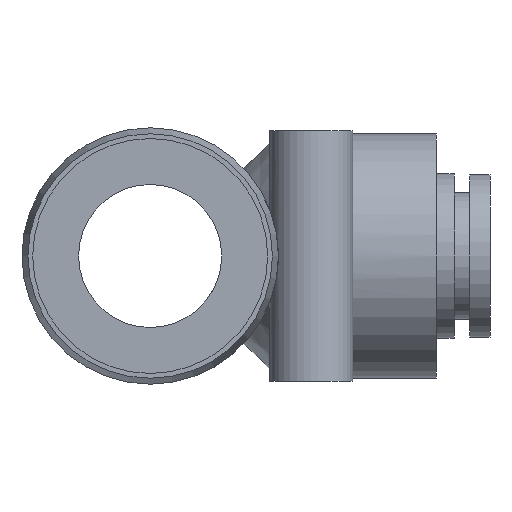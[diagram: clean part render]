
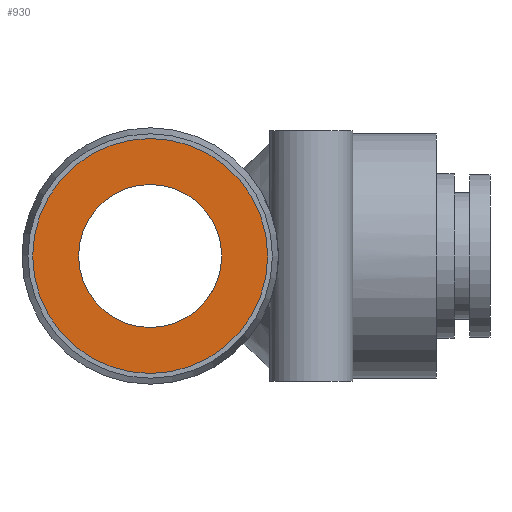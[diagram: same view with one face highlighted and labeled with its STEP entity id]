
A CAD part, left-side view. The second image highlights one B-rep face of the part: STEP entity #930.
In plain terms, the highlighted planar face has unit normal (-1, 0, 0).
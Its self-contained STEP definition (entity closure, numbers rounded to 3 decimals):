
#501=CARTESIAN_POINT('',(-29.,-6.,0.));
#502=VERTEX_POINT('',#501);
#503=CARTESIAN_POINT('',(-29.,0.0,0.0));
#504=DIRECTION('',(1.0,0.0,0.0));
#505=DIRECTION('',(0.0,1.0,0.0));
#506=AXIS2_PLACEMENT_3D('',#503,#504,#505);
#507=CIRCLE('',#506,6.);
#508=EDGE_CURVE('',#502,#502,#507,.T.);
#911=CARTESIAN_POINT('',(-29.,4.925,0.0));
#912=DIRECTION('',(-1.0,0.0,0.0));
#913=DIRECTION('',(0.0,0.0,1.0));
#914=AXIS2_PLACEMENT_3D('',#911,#912,#913);
#915=PLANE('',#914);
#916=CARTESIAN_POINT('',(-29.,9.85,0.0));
#917=VERTEX_POINT('',#916);
#918=CARTESIAN_POINT('',(-29.,0.0,0.0));
#919=DIRECTION('',(1.0,0.0,0.0));
#920=DIRECTION('',(0.0,1.0,0.0));
#921=AXIS2_PLACEMENT_3D('',#918,#919,#920);
#922=CIRCLE('',#921,9.85);
#923=EDGE_CURVE('',#917,#917,#922,.T.);
#924=ORIENTED_EDGE('',*,*,#923,.F.);
#925=EDGE_LOOP('',(#924));
#926=FACE_OUTER_BOUND('',#925,.T.);
#927=ORIENTED_EDGE('',*,*,#508,.T.);
#928=EDGE_LOOP('',(#927));
#929=FACE_BOUND('',#928,.T.);
#930=ADVANCED_FACE('',(#926,#929),#915,.T.);
